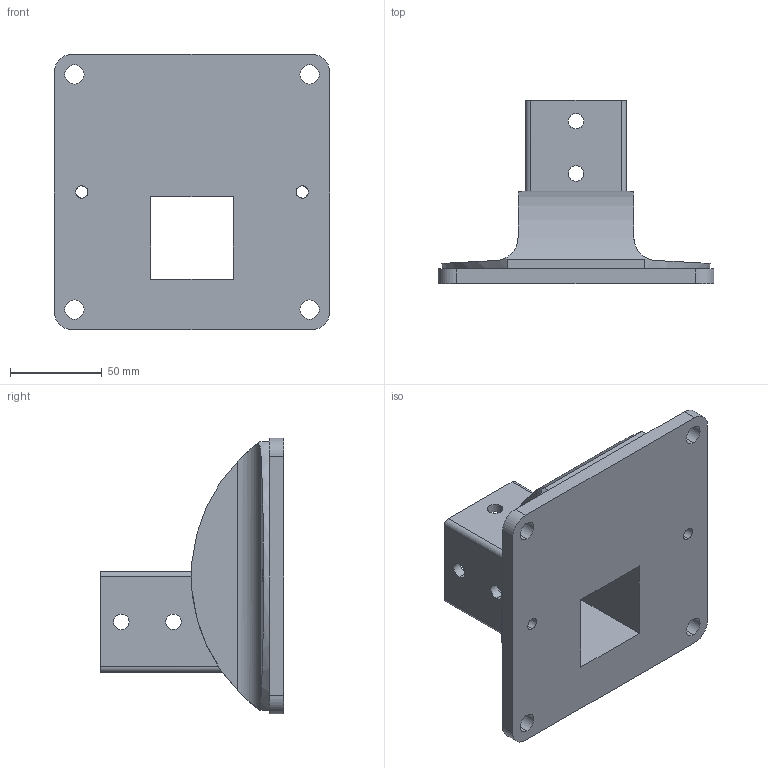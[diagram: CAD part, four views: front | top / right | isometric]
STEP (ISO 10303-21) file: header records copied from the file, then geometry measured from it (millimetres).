
FILE_DESCRIPTION (( 'STEP AP203' ), '1' );
FILE_NAME ('EC150-45.STEP', '2009-04-28T07:07:20', ( 'faber' ), ( '' ), 'SwSTEP 2.0', 'SolidWorks 2008', '' );
FILE_SCHEMA (( 'CONFIG_CONTROL_DESIGN' ));
Length unit declared in the file: millimetre
Products named in the file (1): EC150-45
Bounding box: 150 x 100 x 150 mm (x, y, z)
Volume: 469786.6 mm3; surface area: 86084.6 mm2
Topology: 1 solids, 1 shells, 62 faces, 174 edges, 116 vertices
Faces by surface type: cylinder 41, plane 21
Entity records: 2295 total; most frequent: CARTESIAN_POINT 533, DIRECTION 348, ORIENTED_EDGE 348, EDGE_CURVE 174, AXIS2_PLACEMENT_3D 133, VERTEX_POINT 116, EDGE_LOOP 94, VECTOR 82
